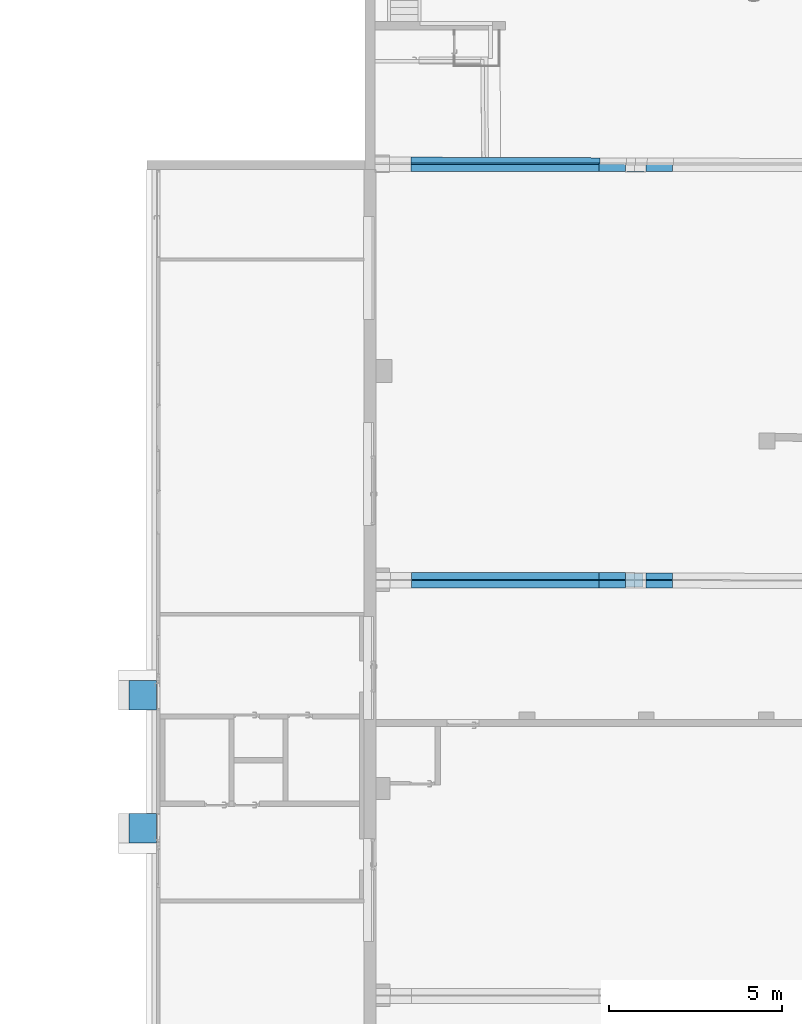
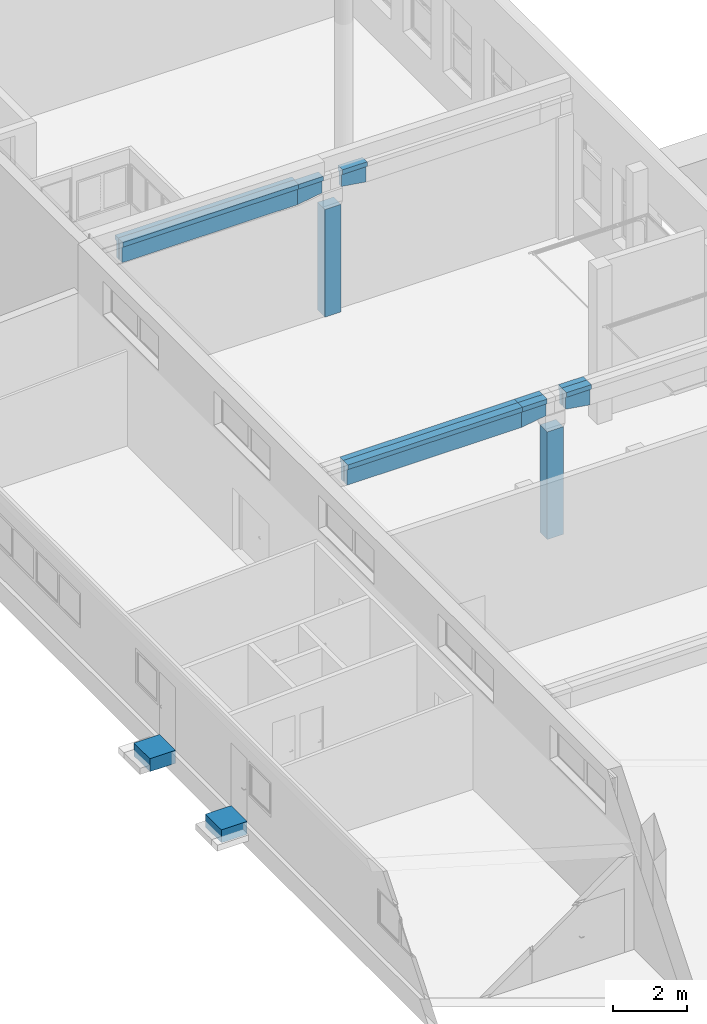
# One storey, part 206 of 301: 14 building element parts, 11 elements without a shape of their own.
"""IFC2X3 building model written with IfcOpenShell, lengths in millimetres."""

from ifc_helpers import new_model, entity, si_unit, converted_unit, derived_unit, money_unit, direction, frame, origin_with_axes, place, context, subcontext, project, spatial, faceted_brep, material, type_object, element, aggregate, save


model = new_model("IFC2X3")

# Units and contexts
model_context = context("Model", 3, precision=0.01, world=origin_with_axes(), true_north=direction((0.0, 1.0)))
body_context = subcontext(model_context, "Body", "Model", "MODEL_VIEW")
ifc_project = project(units=[si_unit("LENGTHUNIT", "METRE", prefix="MILLI"), si_unit("AREAUNIT", "SQUARE_METRE"), si_unit("VOLUMEUNIT", "CUBIC_METRE"), converted_unit("PLANEANGLEUNIT", "DEGREE", entity("IfcPlaneAngleMeasure", 0.0174532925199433), si_unit("PLANEANGLEUNIT", "RADIAN"), dimensions=[0, 0, 0, 0, 0, 0, 0]), money_unit("EUR"), converted_unit("TIMEUNIT", "Year", entity("IfcTimeMeasure", 31557600.0), si_unit("TIMEUNIT", "SECOND"), dimensions=[0, 0, 1, 0, 0, 0, 0]), si_unit("MASSUNIT", "GRAM", prefix="KILO"), si_unit("THERMODYNAMICTEMPERATUREUNIT", "DEGREE_CELSIUS"), si_unit("LUMINOUSINTENSITYUNIT", "LUMEN"), si_unit("ENERGYUNIT", "JOULE", prefix="MEGA"), derived_unit("THERMALCONDUCTANCEUNIT", [(si_unit("POWERUNIT", "WATT"), 1), (si_unit("LENGTHUNIT", "METRE"), -1), (si_unit("THERMODYNAMICTEMPERATUREUNIT", "KELVIN"), -1)]), derived_unit("SPECIFICHEATCAPACITYUNIT", [(si_unit("ENERGYUNIT", "JOULE"), 1), (si_unit("MASSUNIT", "GRAM", prefix="KILO"), -1), (si_unit("THERMODYNAMICTEMPERATUREUNIT", "KELVIN"), -1)]), derived_unit("MASSDENSITYUNIT", [(si_unit("MASSUNIT", "GRAM", prefix="KILO"), 1), (si_unit("VOLUMEUNIT", "CUBIC_METRE"), -1)])], contexts=[model_context])

# Site, building, storey
site_placement = place(None, frame((0.0, 0.0, 8650.0), z_axis=(0.0, 0.0, 1.0), x_axis=(1.0, 0.0, 0.0)))
site = spatial("IfcSite", under=ifc_project, at=site_placement, Name="43301:001:0844", CompositionType="ELEMENT")
building_placement = place(site_placement, origin_with_axes())
building = spatial("IfcBuilding", under=site, at=building_placement, Name="Kuressaare Ametikooli tuulikute mehaanikute õppekorpus", CompositionType="ELEMENT")
storey_placement = place(building_placement, origin_with_axes())
storey = spatial("IfcBuildingStorey", under=building, at=storey_placement, Name="1.korrus", CompositionType="ELEMENT", Elevation=0.0)

# Stair, building element part
stair_1_placement = place(storey_placement, frame((81268.61013779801, 94679.2841910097, -755.0), z_axis=(0.0, 0.0, 1.0), x_axis=(-0.000277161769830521, -0.999999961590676, 0.0)))
stair_1 = element("IfcStair", 1, at=stair_1_placement, inside=storey, Name="Trepp", ShapeType="NOTDEFINED")
ifc_material_1 = material(Name="GENEERILINE - KONSTRUKTRIOON")
building_element_part_1_placement = place(stair_1_placement, origin_with_axes())
building_element_part_1 = element("IfcBuildingElementPart", 2, at=building_element_part_1_placement, material=ifc_material_1, Name="GENEERILINE - KONSTRUKTRIOON", context=body_context, shape_type="Brep", body=[
    faceted_brep([(0.1345055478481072, -173.7106222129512, 425.0), (-854.6144176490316, -173.8548411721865, 425.0), (-854.6144176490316, -173.8548411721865, 0.0), (0.1345055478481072, -173.7106222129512, 0.0), (0.0, 623.4693934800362, 425.0), (-854.7489231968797, 623.3251745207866, 425.0), (-854.7489231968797, 623.3251745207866, 0.0), (0.0, 623.4693934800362, 0.0)], [[[0, 1, 2, 3]], [[4, 5, 1, 0]], [[1, 5, 6, 2]], [[2, 6, 7, 3]], [[4, 0, 3, 7]], [[5, 4, 7, 6]]]),
])
aggregate(stair_1, [building_element_part_1])

stair_2_placement = place(storey_placement, frame((81268.61013779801, 91683.83941314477, -755.0), z_axis=(0.0, 0.0, 1.0), x_axis=(-0.000277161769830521, 0.999999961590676, 0.0)))
stair_2 = element("IfcStair", 3, at=stair_2_placement, inside=storey, Name="Trepp", ShapeType="NOTDEFINED")
building_element_part_2_placement = place(stair_2_placement, origin_with_axes())
building_element_part_2 = element("IfcBuildingElementPart", 4, at=building_element_part_2_placement, material=ifc_material_1, Name="GENEERILINE - KONSTRUKTRIOON", context=body_context, shape_type="Brep", body=[
    faceted_brep([(0.1345055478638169, 173.7106222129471, 425.0), (0.1345055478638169, 173.7106222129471, 0.0), (-854.6144176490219, 173.8548411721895, 0.0), (-854.6144176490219, 173.8548411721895, 425.0), (0.0, -623.4693934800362, 425.0), (0.0, -623.4693934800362, 0.0), (-854.7489231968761, -623.3251745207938, 0.0), (-854.7489231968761, -623.3251745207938, 425.0)], [[[0, 1, 2, 3]], [[4, 5, 1, 0]], [[2, 1, 5, 6]], [[3, 2, 6, 7]], [[4, 0, 3, 7]], [[7, 6, 5, 4]]]),
])
aggregate(stair_2, [building_element_part_2])

# Column, building element part
column_type = type_object("IfcColumnType", Name="Various Structures - 3 Segments - 600 x 400 x 4050 (3533+102+415)", PredefinedType="NOTDEFINED")
column_1_placement = place(storey_placement, frame((95731.50422307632, 98430.65950164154, -330.0), z_axis=(0.0, 0.0, 1.0), x_axis=(1.0, 0.0, 0.0)))
column_1 = element("IfcColumn", 5, at=column_1_placement, inside=storey, type_object=column_type)
building_element_part_3_placement = place(column_1_placement, origin_with_axes())
building_element_part_3 = element("IfcBuildingElementPart", 6, at=building_element_part_3_placement, material=ifc_material_1, Name="GENEERILINE - KONSTRUKTRIOON", context=body_context, shape_type="Brep", body=[
    faceted_brep([(-250.0, -200.0000000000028, 3532.979557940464), (-250.0, -200.0000000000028, 0.0), (250.0, -200.0000000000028, 0.0), (250.0, -200.0000000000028, 3532.979557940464), (-250.0, 200.0000000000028, 3532.979557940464), (-250.0, 200.0000000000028, 0.0), (250.0, 200.0000000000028, 0.0), (250.0, 200.0000000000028, 3532.979557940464)], [[[0, 1, 2, 3]], [[4, 5, 1, 0]], [[2, 1, 5, 6]], [[3, 2, 6, 7]], [[4, 0, 3, 7]], [[7, 6, 5, 4]]]),
])
aggregate(column_1, [building_element_part_3])

# Beam, building element part
beam_type_1 = type_object("IfcBeamType", Name="Various Structures - 5 Segments - 250 x 700 x 7497 (338+766+5404+640+350)", PredefinedType="NOTDEFINED")
beam_1_placement = place(storey_placement, frame((95731.40168846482, 98524.34147844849, 4300.0), z_axis=(0.0, 0.0, 1.0), x_axis=(-0.004564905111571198, -0.999989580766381, 0.0)))
beam_1 = element("IfcBeam", 7, at=beam_1_placement, inside=storey, type_object=beam_type_1)
ifc_material_2 = material(Name="Raudbetoon")
building_element_part_4_placement = place(beam_1_placement, origin_with_axes())
building_element_part_4 = element("IfcBuildingElementPart", 8, at=building_element_part_4_placement, material=ifc_material_2, Name="Raudbetoon", context=body_context, shape_type="Brep", body=[
    faceted_brep([(65.00645157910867, 338.0535640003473, 0.0), (65.00657671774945, 529.5361955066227, 0.0), (65.00682699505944, 912.5014585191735, 0.0), (65.00695193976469, 1103.687342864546, 0.0), (-125.0047820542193, 1103.687342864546, 0.0), (-125.0049071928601, 912.2047113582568, 0.0), (-125.00515747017, 529.2394483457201, 0.0), (-125.0052826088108, 337.7568168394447, 0.0), (65.00617967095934, 337.7568168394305, 0.0), (65.00659725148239, 338.0535640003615, -75.00000000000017), (65.00685766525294, 721.0188270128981, -75.00000000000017), (65.00711762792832, 1103.687342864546, -74.88376994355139), (65.00711812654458, 1103.687342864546, -75.11623005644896), (65.00728381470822, 1103.687342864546, -150.0000000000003), (95.00586698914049, 1103.687342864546, -157.1996599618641), (65.00000000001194, 1103.687342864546, -164.4010680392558), (65.00000000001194, 1103.687342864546, -699.9999999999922), (-64.99999999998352, 1103.687342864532, -699.9999999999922), (-64.99999999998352, 1103.687342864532, -164.4010680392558), (-125.0044501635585, 1103.687342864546, -150.0000000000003), (-125.0046161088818, 1103.687342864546, -75.00000000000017), (-125.0048765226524, 720.7220798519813, -75.00000000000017), (-125.0051369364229, 337.7568168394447, -75.00000000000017), (64.99999999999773, 337.7568168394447, -164.4011979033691), (95.00572142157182, 337.7568168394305, -157.199824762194), (65.00645157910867, 337.7568168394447, -150.0000000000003), (-125.004991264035, 337.7568168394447, -150.0000000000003), (-64.99999999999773, 337.7568168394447, -164.4011979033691), (-64.99999999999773, 337.7568168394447, -579.8231697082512), (64.99999999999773, 337.7568168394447, -579.8231697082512), (65.00674292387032, 338.0535640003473, -150.0000000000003), (65.00687819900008, 529.5361955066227, -150.0000000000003), (65.00714874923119, 912.5014585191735, -150.0000000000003), (-125.0045854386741, 912.2047113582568, -150.0000000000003), (-125.0048559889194, 529.2394483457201, -150.0000000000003)], [[[0, 1, 2, 3, 4, 5, 6, 7, 8]], [[9, 1, 0]], [[10, 2, 1]], [[2, 11, 3]], [[12, 13, 14, 15, 16, 17, 18, 19, 20, 4, 3, 11]], [[5, 4, 20]], [[6, 5, 21]], [[7, 6, 22]], [[23, 24, 25, 8, 7, 22, 26, 27, 28, 29]], [[30, 9, 0, 8, 25]], [[1, 9, 31, 10]], [[32, 12, 11, 2, 10]], [[32, 13, 12]], [[24, 14, 13, 32, 31, 30, 25]], [[15, 14, 24, 23]], [[29, 16, 15, 23]], [[29, 28, 17, 16]], [[27, 18, 17, 28]], [[33, 19, 18, 27, 26, 34]], [[33, 20, 19]], [[5, 20, 33, 21]], [[6, 21, 34, 22]], [[26, 22, 34]], [[31, 9, 30]], [[10, 31, 32]], [[34, 21, 33]]]),
])
aggregate(beam_1, [building_element_part_4])

# Beam, building element parts
beam_type_2 = type_object("IfcBeamType", Name="Various Structures - 5 Segments - 250 x 700 x 7473 (262+767+5416+621+406)", PredefinedType="NOTDEFINED")
beam_2_placement = place(storey_placement, frame((95731.40168846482, 98524.34147844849, 4300.0), z_axis=(0.0, 0.0, 1.0), x_axis=(0.0, 1.0, 0.0)))
beam_2 = element("IfcBeam", 9, at=beam_2_placement, inside=storey, type_object=beam_type_2)
building_element_part_5_placement = place(beam_2_placement, origin_with_axes())
building_element_part_5 = element("IfcBuildingElementPart", 10, at=building_element_part_5_placement, material=ifc_material_2, Name="Raudbetoon", context=body_context, shape_type="Brep", body=[
    faceted_brep([(-64.99999999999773, 261.7777961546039, -579.8231697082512), (-64.99999999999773, 262.906567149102, -580.0000000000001), (64.99999999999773, 262.906567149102, -580.0000000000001), (64.99999999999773, 261.7777961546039, -579.8231697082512), (-64.99999999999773, 299.8974653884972, -585.7948967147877), (-64.99999999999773, 299.8974653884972, -580.0000000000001), (-64.99999999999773, 261.7777961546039, -164.4011979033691), (-64.99999999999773, 1028.909484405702, -164.4010680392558), (-64.99999999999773, 1028.909484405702, -699.9999999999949), (64.99999999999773, 299.8974653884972, -580.0000000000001), (64.99999999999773, 299.8974653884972, -585.7948967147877), (64.99999999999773, 1028.909484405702, -699.9999999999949), (64.99999999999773, 1028.909484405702, -164.4010680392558), (64.99999999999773, 261.7777961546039, -164.4011979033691), (125.0052826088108, 261.7777961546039, 0.0), (-65.00555451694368, 261.7777961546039, 0.0), (-65.0058264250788, 261.7777961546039, -150.0000000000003), (-95.00540884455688, 261.7777961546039, -157.1998997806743), (125.004991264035, 261.7777961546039, -150.0000000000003), (125.0051369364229, 261.7777961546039, -75.00000000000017), (-95.00555431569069, 1028.909484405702, -157.1997350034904), (-65.00665846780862, 1028.909484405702, -150.0000000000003), (-65.00649301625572, 1028.909484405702, -75.22315913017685), (-65.00649205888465, 1028.909484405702, -74.7768408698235), (-65.00632660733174, 1028.909484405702, 0.0), (125.0047820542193, 1028.909484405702, 0.0), (125.004616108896, 1028.909484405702, -75.00000000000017), (125.0044501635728, 1028.909484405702, -150.0000000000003), (125.0045854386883, 837.1265623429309, -150.0000000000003), (125.0048559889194, 453.5607182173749, -150.0000000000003), (-65.00620184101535, 837.697203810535, 0.0), (-65.00595156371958, 454.131359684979, 0.0), (-65.00555451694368, 262.3484376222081, 0.0), (125.00515747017, 453.5607182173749, 0.0), (125.0049071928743, 837.1265623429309, 0.0), (-65.00569047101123, 262.3484376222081, -75.00000000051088), (-65.0058264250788, 262.3484376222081, -150.0000000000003), (-65.00625304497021, 454.131359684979, -150.0000000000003), (-65.00652359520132, 837.697203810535, -150.0000000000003), (-65.00623251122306, 645.9142817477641, -75.00000000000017), (125.0048765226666, 645.3436402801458, -75.00000000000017)], [[[0, 1, 2, 3]], [[4, 5, 1, 0, 6, 7, 8]], [[5, 9, 2, 1]], [[2, 9, 10, 11, 12, 13, 3]], [[14, 15, 16, 17, 6, 0, 3, 13, 18, 19]], [[4, 10, 9, 5]], [[7, 6, 17, 20]], [[20, 21, 22, 23, 24, 25, 26, 27, 12, 11, 8, 7]], [[11, 10, 4, 8]], [[18, 13, 12, 27, 28, 29]], [[30, 31, 32, 15, 14, 33, 34, 25, 24]], [[35, 36, 16, 15, 32]], [[21, 20, 17, 16, 36, 37, 38]], [[19, 18, 29]], [[33, 14, 19]], [[22, 21, 38]], [[38, 39, 30, 23, 22]], [[30, 24, 23]], [[25, 34, 26]], [[26, 28, 27]], [[40, 29, 28]], [[31, 30, 39]], [[32, 31, 35]], [[34, 33, 40]], [[35, 37, 36]], [[37, 39, 38]], [[19, 29, 40, 33]], [[40, 28, 26, 34]], [[31, 39, 37, 35]]]),
])
building_element_part_6_placement = place(beam_2_placement, origin_with_axes())
building_element_part_6 = element("IfcBuildingElementPart", 11, at=building_element_part_6_placement, material=ifc_material_2, Name="Raudbetoon", context=body_context, shape_type="Brep", body=[
    faceted_brep([(125.0055545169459, 6444.812621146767, 0.0), (-65.00555451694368, 6444.812621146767, 0.0), (-65.00555451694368, 1029.480125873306, 0.0), (-65.00632660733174, 1028.909484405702, 0.0), (125.0055545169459, 1028.909484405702, 0.0), (-95.00555451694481, 6444.812621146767, -157.1999347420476), (-65.0058264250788, 6444.812621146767, -150.0000000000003), (125.0052826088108, 6444.812621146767, -150.0000000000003), (64.99999999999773, 6444.812621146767, -164.4012678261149), (64.99999999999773, 6444.812621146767, -700.0000000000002), (-64.99999999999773, 6444.812621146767, -700.0000000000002), (-64.99999999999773, 6444.812621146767, -164.4012678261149), (-65.0058264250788, 1029.480125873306, -150.0000000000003), (-65.00569047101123, 1029.480125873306, -75.00000000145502), (-65.00649205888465, 1028.909484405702, -74.7768408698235), (-65.00649301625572, 1028.909484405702, -75.22315913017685), (-65.00665846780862, 1028.909484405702, -150.0000000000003), (-95.00597053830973, 1028.909484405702, -157.1998348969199), (-64.99999999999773, 1028.909484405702, -164.4012678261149), (-64.99999999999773, 1028.909484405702, -700.0000000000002), (64.99999999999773, 1028.909484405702, -700.0000000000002), (64.99999999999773, 1028.909484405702, -164.4012678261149), (125.0052826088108, 1028.909484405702, -150.0000000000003)], [[[0, 1, 2, 3, 4]], [[5, 6, 1, 0, 7, 8, 9, 10, 11]], [[12, 13, 2, 1, 6]], [[3, 2, 13, 14]], [[14, 15, 16, 17, 18, 19, 20, 21, 22, 4, 3]], [[0, 4, 22, 7]], [[16, 12, 6, 5, 17]], [[7, 22, 21, 8]], [[8, 21, 20, 9]], [[9, 20, 19, 10]], [[10, 19, 18, 11]], [[17, 5, 11, 18]], [[15, 13, 12, 16]], [[14, 13, 15]]]),
])
aggregate(beam_2, [building_element_part_5, building_element_part_6])

# Beam, building element part
beam_3_placement = place(storey_placement, frame((95730.8310469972, 98334.3303694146, 4300.0), z_axis=(0.0, 0.0, 1.0), x_axis=(-0.004564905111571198, -0.999989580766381, 0.0)))
beam_3 = element("IfcBeam", 12, at=beam_3_placement, inside=storey, type_object=beam_type_1)
building_element_part_7_placement = place(beam_3_placement, origin_with_axes())
building_element_part_7 = element("IfcBuildingElementPart", 13, at=building_element_part_7_placement, material=ifc_material_2, Name="Raudbetoon", context=body_context, shape_type="Brep", body=[
    faceted_brep([(64.99999999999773, 1103.687342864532, -164.4010680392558), (64.99999999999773, 337.7568168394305, -164.4011979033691), (64.99999999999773, 337.7568168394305, -579.8231697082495), (64.99999999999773, 1103.687342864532, -699.99999999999), (125.0044501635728, 1103.687342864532, -150.0000000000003), (125.0045854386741, 912.2047113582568, -150.0000000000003), (125.0048559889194, 529.2394483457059, -150.0000000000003), (125.0049912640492, 337.7568168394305, -150.0000000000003), (-64.99999999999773, 337.7568168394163, -579.8231697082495), (125.0051369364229, 337.7568168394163, -75.00000000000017), (125.0052826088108, 337.7568168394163, 0.0), (-125.0052826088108, 337.7568168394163, 0.0), (-125.0051369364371, 337.7568168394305, -75.00000000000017), (-125.0049912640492, 337.7568168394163, -150.0000000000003), (-64.99999999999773, 337.7568168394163, -164.4011979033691), (-64.99999999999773, 1103.687342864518, -699.99999999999), (-64.99999999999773, 1103.687342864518, -164.4010680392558), (-125.0044501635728, 1103.687342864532, -150.0000000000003), (-125.004616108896, 1103.687342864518, -75.00000000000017), (-125.0047820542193, 1103.687342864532, 0.0), (125.0047820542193, 1103.687342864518, 0.0), (125.004616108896, 1103.687342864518, -75.00000000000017), (125.0048765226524, 720.7220798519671, -75.00000000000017), (125.00515747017, 529.2394483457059, 0.0), (-125.0049071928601, 912.2047113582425, 0.0), (-125.00515747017, 529.2394483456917, 0.0), (125.0049071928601, 912.2047113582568, 0.0), (-125.0048559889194, 529.2394483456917, -150.0000000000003), (-125.0045854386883, 912.2047113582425, -150.0000000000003), (-125.0048765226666, 720.7220798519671, -75.00000000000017)], [[[0, 1, 2, 3]], [[4, 5, 6, 7, 1, 0]], [[8, 2, 1, 7, 9, 10, 11, 12, 13, 14]], [[15, 3, 2, 8]], [[0, 3, 15, 16, 17, 18, 19, 20, 21, 4]], [[21, 5, 4]], [[22, 6, 5]], [[9, 7, 6]], [[23, 10, 9]], [[19, 24, 25, 11, 10, 23, 26, 20]], [[12, 11, 25]], [[27, 13, 12]], [[16, 14, 13, 27, 28, 17]], [[15, 8, 14, 16]], [[17, 28, 18]], [[18, 24, 19]], [[20, 26, 21]], [[26, 22, 5, 21]], [[23, 9, 6, 22]], [[29, 25, 24]], [[26, 23, 22]], [[27, 12, 25, 29]], [[28, 27, 29]], [[28, 29, 24, 18]]]),
])
aggregate(beam_3, [building_element_part_7])

# Beam, building element parts
beam_type_3 = type_object("IfcBeamType", Name="Various Structures - 5 Segments - 250 x 700 x 7472 (262+767+5416+621+406)", PredefinedType="NOTDEFINED")
beam_4_placement = place(storey_placement, frame((95730.8310469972, 98334.3303694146, 4300.0), z_axis=(0.0, 0.0, 1.0), x_axis=(0.0, 1.0, 0.0)))
beam_4 = element("IfcBeam", 14, at=beam_4_placement, inside=storey, type_object=beam_type_3)
building_element_part_8_placement = place(beam_4_placement, origin_with_axes())
building_element_part_8 = element("IfcBuildingElementPart", 15, at=building_element_part_8_placement, material=ifc_material_2, Name="Raudbetoon", context=body_context, shape_type="Brep", body=[
    faceted_brep([(64.99999999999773, 1028.909484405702, -700.0000000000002), (64.99999999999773, 6444.812621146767, -700.0000000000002), (64.99999999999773, 6444.812621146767, -164.4012678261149), (64.99999999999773, 1028.909484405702, -164.4012678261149), (-64.99999999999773, 1028.909484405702, -700.0000000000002), (-64.99999999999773, 6444.812621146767, -700.0000000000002), (-64.99999999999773, 6444.812621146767, -164.4012678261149), (-125.0052826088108, 6444.812621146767, -150.0000000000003), (-125.0055545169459, 6444.812621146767, 0.0), (125.0055545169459, 6444.812621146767, 0.0), (125.0052826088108, 6444.812621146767, -150.0000000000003), (125.0052826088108, 1028.909484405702, -150.0000000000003), (125.0055545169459, 1028.909484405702, 0.0), (-125.0055545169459, 1028.909484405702, 0.0), (-125.0052826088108, 1028.909484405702, -150.0000000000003), (-64.99999999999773, 1028.909484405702, -164.4012678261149)], [[[0, 1, 2, 3]], [[4, 5, 1, 0]], [[2, 1, 5, 6, 7, 8, 9, 10]], [[3, 2, 10, 11]], [[4, 0, 3, 11, 12, 13, 14, 15]], [[15, 6, 5, 4]], [[14, 7, 6, 15]], [[13, 8, 7, 14]], [[12, 9, 8, 13]], [[11, 10, 9, 12]]]),
])
building_element_part_9_placement = place(beam_4_placement, origin_with_axes())
building_element_part_9 = element("IfcBuildingElementPart", 16, at=building_element_part_9_placement, material=ifc_material_2, Name="Raudbetoon", context=body_context, shape_type="Brep", body=[
    faceted_brep([(-64.99999999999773, 261.7777961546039, -579.8231697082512), (-64.99999999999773, 262.906567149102, -580.0000000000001), (64.99999999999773, 262.906567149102, -580.0000000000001), (64.99999999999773, 261.7777961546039, -579.8231697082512), (-64.99999999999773, 299.326823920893, -585.7055015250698), (-64.99999999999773, 299.326823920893, -580.0000000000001), (-64.99999999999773, 261.7777961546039, -164.4011979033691), (-64.99999999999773, 1028.909484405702, -164.4010680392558), (-64.99999999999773, 1028.909484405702, -699.9999999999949), (64.99999999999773, 299.326823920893, -580.0000000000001), (64.99999999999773, 299.326823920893, -585.7055015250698), (64.99999999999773, 1028.909484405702, -699.9999999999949), (64.99999999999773, 1028.909484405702, -164.4010680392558), (64.99999999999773, 261.7777961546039, -164.4011979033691), (125.004991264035, 261.7777961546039, -150.0000000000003), (125.0051369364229, 261.7777961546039, -75.00000000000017), (125.0052826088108, 261.7777961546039, 0.0), (-125.0052826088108, 261.7777961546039, 0.0), (-125.0051369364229, 261.7777961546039, -75.00000000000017), (-125.004991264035, 261.7777961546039, -150.0000000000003), (-125.0044501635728, 1028.909484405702, -150.0000000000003), (-125.0048559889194, 453.5607182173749, -150.0000000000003), (-125.0045854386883, 837.1265623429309, -150.0000000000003), (125.0044501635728, 1028.909484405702, -150.0000000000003), (-125.004616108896, 1028.909484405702, -75.00000000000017), (-125.0047820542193, 1028.909484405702, 0.0), (125.0047820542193, 1028.909484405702, 0.0), (125.004616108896, 1028.909484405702, -75.00000000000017), (125.0045854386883, 837.1265623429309, -150.0000000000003), (125.0048559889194, 453.5607182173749, -150.0000000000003), (125.00515747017, 453.5607182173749, 0.0), (-125.0049071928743, 837.1265623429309, 0.0), (-125.00515747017, 453.5607182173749, 0.0), (125.0049071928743, 837.1265623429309, 0.0), (-125.0048765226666, 645.34364028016, -75.00000000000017), (125.0048765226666, 645.34364028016, -75.00000000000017)], [[[0, 1, 2, 3]], [[4, 5, 1, 0, 6, 7, 8]], [[5, 9, 2, 1]], [[2, 9, 10, 11, 12, 13, 3]], [[6, 0, 3, 13, 14, 15, 16, 17, 18, 19]], [[4, 10, 9, 5]], [[20, 7, 6, 19, 21, 22]], [[23, 12, 11, 8, 7, 20, 24, 25, 26, 27]], [[11, 10, 4, 8]], [[12, 23, 28, 29, 14, 13]], [[29, 15, 14]], [[15, 30, 16]], [[26, 25, 31, 32, 17, 16, 30, 33]], [[32, 18, 17]], [[18, 21, 19]], [[34, 22, 21]], [[24, 20, 22]], [[25, 24, 31]], [[27, 26, 33]], [[23, 27, 28]], [[28, 35, 29]], [[35, 30, 15, 29]], [[31, 34, 32]], [[35, 33, 30]], [[34, 21, 18, 32]], [[24, 22, 34, 31]], [[27, 33, 35, 28]]]),
])
aggregate(beam_4, [building_element_part_8, building_element_part_9])

# Column, building element part
column_2_placement = place(storey_placement, frame((95767.69854968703, 110447.6710053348, -330.0), z_axis=(0.0, 0.0, 1.0), x_axis=(1.0, 0.0, 0.0)))
column_2 = element("IfcColumn", 17, at=column_2_placement, inside=storey, type_object=column_type)
building_element_part_10_placement = place(column_2_placement, origin_with_axes())
building_element_part_10 = element("IfcBuildingElementPart", 18, at=building_element_part_10_placement, material=ifc_material_1, Name="GENEERILINE - KONSTRUKTRIOON", context=body_context, shape_type="Brep", body=[
    faceted_brep([(-250.0, -200.0000000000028, 3532.979557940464), (-250.0, -200.0000000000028, 0.0), (250.0, -200.0000000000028, 0.0), (250.0, -200.0000000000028, 3532.979557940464), (-250.0, 200.0000000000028, 3532.979557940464), (-250.0, 200.0000000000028, 0.0), (250.0, 200.0000000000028, 0.0), (250.0, 200.0000000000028, 3532.979557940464)], [[[0, 1, 2, 3]], [[4, 5, 1, 0]], [[2, 1, 5, 6]], [[3, 2, 6, 7]], [[4, 0, 3, 7]], [[7, 6, 5, 4]]]),
])
aggregate(column_2, [building_element_part_10])

# Beam, building element part
beam_type_4 = type_object("IfcBeamType", Name="Various Structures - 5 Segments - 250 x 700 x 7549 (262+767+5479+621+420)", PredefinedType="NOTDEFINED")
beam_5_placement = place(storey_placement, frame((95768.13751728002, 110534.9689250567, 4300.0), z_axis=(0.0, 0.0, 1.0), x_axis=(0.003367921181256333, 0.9999943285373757, 0.0)))
beam_5 = element("IfcBeam", 19, at=beam_5_placement, inside=storey, type_object=beam_type_4)
building_element_part_11_placement = place(beam_5_placement, origin_with_axes())
building_element_part_11 = element("IfcBuildingElementPart", 20, at=building_element_part_11_placement, material=ifc_material_2, Name="Raudbetoon", context=body_context, shape_type="Brep", body=[
    faceted_brep([(125.0052826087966, 1028.909484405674, -150.0000000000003), (125.0052826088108, 4360.993776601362, -150.0000000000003), (125.0055545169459, 4360.975344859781, 0.0), (125.0055545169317, 1028.909484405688, 0.0), (125.0052826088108, 4452.374362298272, -150.0000000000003), (123.6575142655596, 4452.354479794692, -150.3234644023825), (64.99999999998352, 1028.909484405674, -164.4012678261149), (64.99999999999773, 6508.271561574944, -164.4012678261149), (125.0052826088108, 6508.271561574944, -150.0000000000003), (123.6575142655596, 4452.354479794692, 0.0), (125.0055545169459, 4452.374366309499, 0.0), (125.0055545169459, 6508.271561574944, 0.0), (-44.69294681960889, 6508.271561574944, 0.0), (-44.69195840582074, 6508.116462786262, 0.0), (-26.34043741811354, 1059.001598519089, 0.0), (-26.23906933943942, 1028.909484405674, 0.0), (-26.2392092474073, 1028.909484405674, -63.23189622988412), (-26.23925973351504, 1028.909484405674, -86.76810370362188), (-26.23939964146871, 1028.909484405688, -150.0000000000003), (-75.62248122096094, 1028.909484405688, -161.8518723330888), (-65.00000000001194, 1028.909484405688, -164.4012678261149), (-65.00000000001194, 1028.909484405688, -700.0000000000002), (64.99999999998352, 1028.909484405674, -700.0000000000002), (64.99999999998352, 6507.914370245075, -700.0000000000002), (64.99999999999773, 6508.271561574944, -699.9597332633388), (-65.00000000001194, 6508.271561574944, -699.9597331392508), (-65.00000000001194, 6508.271561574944, -164.4012678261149), (-84.84938167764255, 6508.271561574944, -159.6374162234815), (-44.69325311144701, 6508.271561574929, -150.0000000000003), (-44.69310011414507, 6508.271561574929, -75.07488188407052), (-44.69309981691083, 6508.271561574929, -74.925118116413), (-44.69209435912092, 6508.116462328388, -75.00000000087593), (-44.69223031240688, 6508.116461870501, -150.0000000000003), (-26.34076930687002, 1059.00159740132, -150.0000000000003), (-26.34060336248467, 1059.001597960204, -75.00000000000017), (-64.99999999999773, 6507.914369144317, -700.0000000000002)], [[[0, 1, 2, 3]], [[4, 5, 1, 0, 6, 7, 8]], [[5, 9, 2, 1]], [[2, 9, 10, 11, 12, 13, 14, 15, 3]], [[16, 17, 18, 19, 20, 21, 22, 6, 0, 3, 15]], [[4, 10, 9, 5]], [[22, 23, 24, 7, 6]], [[7, 24, 25, 26, 27, 28, 29, 30, 12, 11, 8]], [[11, 10, 4, 8]], [[13, 12, 30, 31]], [[32, 33, 34, 14, 13, 31]], [[14, 34, 16, 15]], [[16, 34, 17]], [[34, 33, 18, 17]], [[28, 27, 19, 18, 33, 32]], [[26, 20, 19, 27]], [[26, 25, 35, 21, 20]], [[21, 35, 23, 22]], [[25, 24, 23, 35]], [[31, 29, 28, 32]], [[31, 30, 29]]]),
])
aggregate(beam_5, [building_element_part_11])

beam_type_5 = type_object("IfcBeamType", Name="Various Structures - 5 Segments - 250 x 700 x 7489 (338+766+5394+640+352)", PredefinedType="NOTDEFINED")
beam_6_placement = place(storey_placement, frame((95737.96269673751, 110387.1904888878, 4300.0), z_axis=(0.0, 0.0, 1.0), x_axis=(-0.0003136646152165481, -0.9999999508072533, 0.0)))
beam_6 = element("IfcBeam", 21, at=beam_6_placement, inside=storey, type_object=beam_type_5)
building_element_part_12_placement = place(beam_6_placement, origin_with_axes())
building_element_part_12 = element("IfcBuildingElementPart", 22, at=building_element_part_12_placement, material=ifc_material_2, Name="Raudbetoon", context=body_context, shape_type="Brep", body=[
    faceted_brep([(64.99999999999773, 1103.687342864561, -699.9999999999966), (-19.5133735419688, 1103.687342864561, -699.9999999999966), (-19.5133735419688, 1103.687342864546, -695.4083774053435), (-64.99999999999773, 1103.687342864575, -695.3865792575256), (-64.99999999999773, 1103.687342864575, -164.4010680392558), (-125.0044501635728, 1103.687342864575, -150.0000000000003), (-125.004616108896, 1103.687342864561, -75.00000000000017), (-125.0047820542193, 1103.687342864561, 0.0), (125.0047820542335, 1103.687342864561, 0.0), (125.004616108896, 1103.687342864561, -75.00000000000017), (125.0044501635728, 1103.687342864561, -150.0000000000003), (64.99999999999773, 1103.687342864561, -164.4010680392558), (-64.99999999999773, 338.6172013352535, -579.9581666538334), (-21.85011126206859, 338.6134159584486, -579.9575727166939), (64.99999999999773, 337.7568168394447, -579.8231697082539), (-64.99999999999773, 337.7568168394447, -579.8231697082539), (-21.76328832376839, 367.0402119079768, -579.8256732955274), (-64.99999999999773, 367.1722682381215, -579.8256732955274), (-64.99999999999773, 337.7568168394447, -164.4011979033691), (-125.004991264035, 337.7568168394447, -150.0000000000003), (-125.0048559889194, 529.2394483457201, -150.0000000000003), (-125.0045854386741, 912.2047113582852, -150.0000000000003), (-125.0049071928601, 912.2047113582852, 0.0), (-125.0051574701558, 529.2394483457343, 0.0), (-125.0052826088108, 337.7568168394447, 0.0), (125.0052826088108, 337.7568168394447, 0.0), (125.0051574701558, 529.2394483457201, 0.0), (125.0049071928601, 912.2047113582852, 0.0), (125.0045854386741, 912.2047113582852, -150.0000000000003), (125.0048559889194, 529.2394483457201, -150.0000000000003), (125.004991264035, 337.7568168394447, -150.0000000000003), (64.99999999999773, 337.7568168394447, -164.4011979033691), (125.0051369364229, 337.7568168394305, -75.00000000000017), (-125.0051369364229, 337.7568168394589, -75.00000000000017), (-125.0048765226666, 720.7220798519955, -75.00000000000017), (125.0048765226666, 720.7220798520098, -75.00000000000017)], [[[0, 1, 2, 3, 4, 5, 6, 7, 8, 9, 10, 11]], [[12, 13, 1, 0, 14, 15]], [[16, 2, 1, 13]], [[16, 17, 3, 2]], [[3, 17, 12, 15, 18, 4]], [[5, 4, 18, 19, 20, 21]], [[6, 5, 21]], [[7, 6, 22]], [[8, 7, 22, 23, 24, 25, 26, 27]], [[9, 8, 27]], [[10, 9, 28]], [[11, 10, 28, 29, 30, 31]], [[0, 11, 31, 14]], [[13, 12, 17, 16]], [[18, 15, 14, 31, 30, 32, 25, 24, 33, 19]], [[33, 20, 19]], [[34, 21, 20]], [[6, 21, 34, 22]], [[22, 34, 23]], [[23, 33, 24]], [[32, 26, 25]], [[35, 27, 26]], [[9, 27, 35, 28]], [[28, 35, 29]], [[29, 32, 30]], [[34, 20, 33, 23]], [[35, 26, 32, 29]]]),
])
aggregate(beam_6, [building_element_part_12])

# Beam, building element parts
beam_type_6 = type_object("IfcBeamType", Name="Various Structures - 5 Segments - 250 x 700 x 7519 (262+767+5449+621+420)", PredefinedType="NOTDEFINED")
beam_7_placement = place(storey_placement, frame((95737.96269673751, 110387.1904888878, 4300.0), z_axis=(0.0, 0.0, 1.0), x_axis=(0.0, 1.0, 0.0)))
beam_7 = element("IfcBeam", 23, at=beam_7_placement, inside=storey, type_object=beam_type_6)
building_element_part_13_placement = place(beam_7_placement, origin_with_axes())
building_element_part_13 = element("IfcBuildingElementPart", 24, at=building_element_part_13_placement, material=ifc_material_2, Name="Raudbetoon", context=body_context, shape_type="Brep", body=[
    faceted_brep([(-64.99999999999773, 261.7777961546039, -579.8231697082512), (-64.99999999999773, 262.9065671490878, -580.0000000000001), (64.99999999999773, 262.9065671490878, -580.0000000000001), (64.99999999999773, 261.7777961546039, -579.8231697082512), (-64.99999999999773, 270.2641470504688, -581.1526190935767), (-64.99999999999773, 270.2641470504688, -580.0000000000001), (-64.99999999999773, 261.7777961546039, -164.4011979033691), (-64.99999999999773, 1028.909484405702, -164.4010680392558), (-64.99999999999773, 1028.909484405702, -699.9999999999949), (-64.99999999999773, 431.2646929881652, -606.3745406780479), (-64.99999999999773, 271.2030899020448, -579.9999464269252), (-64.99999999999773, 271.2035824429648, -581.29978856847), (64.99999999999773, 270.2641470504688, -580.0000000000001), (64.99999999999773, 270.2641470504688, -581.1526190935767), (64.99999999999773, 270.765725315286, -581.2311950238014), (64.99999999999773, 270.765258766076, -579.9999464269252), (64.99999999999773, 422.3803033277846, -604.9827355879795), (64.99999999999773, 1028.909484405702, -699.9999999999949), (64.99999999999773, 1028.909484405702, -164.4010680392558), (64.99999999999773, 261.7777961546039, -164.4011979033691), (-125.004991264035, 261.7777961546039, -150.0000000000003), (125.004991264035, 261.7777961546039, -150.0000000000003), (125.0051369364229, 261.7777961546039, -75.00000000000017), (125.0052826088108, 261.7777961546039, 0.0), (-125.0052826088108, 261.7777961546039, 0.0), (-125.0051369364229, 261.7777961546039, -75.00000000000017), (-125.0045854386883, 837.1265623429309, -150.0000000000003), (-125.0044501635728, 1028.909484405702, -150.0000000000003), (-125.0048559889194, 453.5607182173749, -150.0000000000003), (125.004616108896, 1028.909484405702, -75.00000000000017), (125.0044501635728, 1028.909484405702, -150.0000000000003), (-125.004616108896, 1028.909484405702, -75.00000000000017), (-125.0047820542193, 1028.909484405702, 0.0), (125.0047820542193, 1028.909484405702, 0.0), (125.0045854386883, 837.1265623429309, -150.0000000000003), (125.0048559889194, 453.5607182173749, -150.0000000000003), (125.00515747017, 453.5607182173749, 0.0), (125.0049071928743, 837.1265623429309, 0.0), (-125.0049071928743, 837.1265623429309, 0.0), (-125.00515747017, 453.5607182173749, 0.0), (-125.0048765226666, 645.34364028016, -75.00000000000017), (125.0048765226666, 645.34364028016, -75.00000000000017)], [[[0, 1, 2, 3]], [[4, 5, 1, 0, 6, 7, 8, 9, 10, 11]], [[5, 12, 2, 1]], [[2, 12, 13, 14, 15, 16, 17, 18, 19, 3]], [[20, 6, 0, 3, 19, 21, 22, 23, 24, 25]], [[4, 13, 12, 5]], [[26, 27, 7, 6, 20, 28]], [[29, 30, 18, 17, 8, 7, 27, 31, 32, 33]], [[8, 17, 16, 9]], [[10, 9, 16, 15]], [[11, 10, 15, 14]], [[14, 13, 4, 11]], [[19, 18, 30, 34, 35, 21]], [[21, 35, 22]], [[23, 22, 36]], [[37, 33, 32, 38, 39, 24, 23, 36]], [[24, 39, 25]], [[20, 25, 28]], [[26, 31, 27]], [[28, 40, 26]], [[34, 30, 29]], [[38, 32, 31]], [[37, 29, 33]], [[35, 34, 41]], [[35, 41, 36, 22]], [[39, 38, 40]], [[36, 41, 37]], [[39, 40, 28, 25]], [[38, 31, 26, 40]], [[34, 29, 37, 41]]]),
])
building_element_part_14_placement = place(beam_7_placement, origin_with_axes())
building_element_part_14 = element("IfcBuildingElementPart", 25, at=building_element_part_14_placement, material=ifc_material_2, Name="Raudbetoon", context=body_context, shape_type="Brep", body=[
    faceted_brep([(64.99999999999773, 1028.909484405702, -164.4012678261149), (64.99999999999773, 1028.909484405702, -700.0000000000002), (64.99999999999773, 6478.055250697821, -700.0000000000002), (64.99999999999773, 6478.055250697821, -164.4012678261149), (-64.99999999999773, 1028.909484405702, -164.4012678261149), (-64.99999999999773, 1028.909484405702, -700.0000000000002), (125.0052826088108, 1028.909484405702, -150.0000000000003), (125.0055545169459, 1028.909484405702, 0.0), (-125.0055545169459, 1028.909484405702, 0.0), (-125.0052826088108, 1028.909484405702, -150.0000000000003), (-64.99999999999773, 6478.055250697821, -700.0000000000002), (125.0052826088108, 6478.055250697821, -150.0000000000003), (-64.99999999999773, 6478.055250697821, -164.4012678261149), (-125.0052826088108, 6478.055250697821, -150.0000000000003), (-125.0055545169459, 6478.055250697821, 0.0), (125.0055545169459, 6478.055250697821, 0.0)], [[[0, 1, 2, 3]], [[4, 5, 1, 0, 6, 7, 8, 9]], [[1, 5, 10, 2]], [[11, 3, 2, 10, 12, 13, 14, 15]], [[6, 0, 3, 11]], [[5, 4, 12, 10]], [[7, 6, 11, 15]], [[8, 7, 15, 14]], [[9, 8, 14, 13]], [[4, 9, 13, 12]]]),
])
aggregate(beam_7, [building_element_part_13, building_element_part_14])

save(model, "model.ifc")
